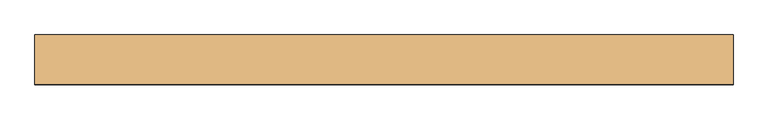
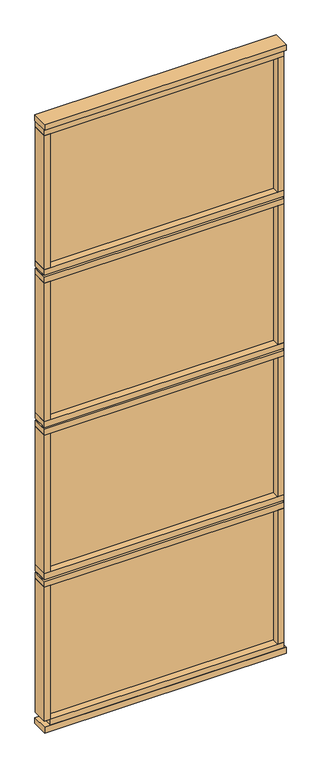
"""IFC4 building model written with IfcOpenShell, lengths in millimetres: door geometry, Mobiliário_Mobiliário de Escritório_Painel de Vidro Simples - AU4T (Complementar)_Marelli : AU4T - Temperado."""

from ifc_helpers import new_model, si_unit, frame, origin, origin_with_axes, place, context, project, spatial, polyline, outline, extrude, source, transform, mapped, element, save


def door_78983a9b(model_context):
    return source(origin(), model_context, "Body", "SweptSolid", [
        extrude(outline(polyline([(600.0, 42.5), (600.0, -42.5), (-600.0, -42.5), (-600.0, 42.5), (600.0, 42.5)])), origin_with_axes(), (0.0, 0.0, 1.0), 30.0),
        extrude(outline(polyline([(590.0, 39.5), (590.0, -39.5), (-600.0, -39.5), (-600.0, 39.5), (590.0, 39.5)])), frame((0.0, 0.0, 2405.0), z_axis=(0.0, 0.0, 1.0), x_axis=(1.0, 0.0, 0.0)), (0.0, 0.0, 1.0), 30.0),
        extrude(outline(polyline([(-570.0, 39.5), (-570.0, -39.5), (-600.0, -39.5), (-600.0, 39.5), (-570.0, 39.5)])), frame((0.0, 0.0, 2435.0), z_axis=(0.0, 0.0, 1.0), x_axis=(1.0, 0.0, 0.0)), (0.0, 0.0, 1.0), 705.0),
        extrude(outline(polyline([(560.0, 39.5), (590.0, 39.5), (590.0, -39.5), (560.0, -39.5), (560.0, 39.5)])), frame((0.0, 0.0, 2435.0), z_axis=(0.0, 0.0, 1.0), x_axis=(1.0, 0.0, 0.0)), (0.0, 0.0, 1.0), 705.0),
        extrude(outline(polyline([(560.0, 3.0), (560.0, -3.0), (-570.0, -3.0), (-570.0, 3.0), (560.0, 3.0)])), frame((0.0, 0.0, 2435.0), z_axis=(0.0, 0.0, 1.0), x_axis=(1.0, 0.0, 0.0)), (0.0, 0.0, 1.0), 705.0),
        extrude(outline(polyline([(590.0, 21.5), (590.0, -21.5), (-600.0, -21.5), (-600.0, 21.5), (590.0, 21.5)])), frame((0.0, 0.0, 2395.0), z_axis=(0.0, 0.0, 1.0), x_axis=(1.0, 0.0, 0.0)), (0.0, 0.0, 1.0), 10.0),
        extrude(outline(polyline([(590.0, 21.5), (590.0, -21.5), (-600.0, -21.5), (-600.0, 21.5), (590.0, 21.5)])), frame((0.0, 0.0, 1595.0), z_axis=(0.0, 0.0, 1.0), x_axis=(1.0, 0.0, 0.0)), (0.0, 0.0, 1.0), 10.0),
        extrude(outline(polyline([(590.0, 21.5), (590.0, -21.5), (-600.0, -21.5), (-600.0, 21.5), (590.0, 21.5)])), frame((0.0, 0.0, 795.0), z_axis=(0.0, 0.0, 1.0), x_axis=(1.0, 0.0, 0.0)), (0.0, 0.0, 1.0), 10.0),
        extrude(outline(polyline([(590.0, 39.5), (590.0, -39.5), (-600.0, -39.5), (-600.0, 39.5), (590.0, 39.5)])), frame((0.0, 0.0, 1605.0), z_axis=(0.0, 0.0, 1.0), x_axis=(1.0, 0.0, 0.0)), (0.0, 0.0, 1.0), 30.0),
        extrude(outline(polyline([(590.0, 39.5), (590.0, -39.5), (-600.0, -39.5), (-600.0, 39.5), (590.0, 39.5)])), frame((0.0, 0.0, 2365.0), z_axis=(0.0, 0.0, 1.0), x_axis=(1.0, 0.0, 0.0)), (0.0, 0.0, 1.0), 30.0),
        extrude(outline(polyline([(590.0, 39.5), (590.0, -39.5), (-600.0, -39.5), (-600.0, 39.5), (590.0, 39.5)])), frame((0.0, 0.0, 1565.0), z_axis=(0.0, 0.0, 1.0), x_axis=(1.0, 0.0, 0.0)), (0.0, 0.0, 1.0), 30.0),
        extrude(outline(polyline([(590.0, 39.5), (590.0, -39.5), (-600.0, -39.5), (-600.0, 39.5), (590.0, 39.5)])), frame((0.0, 0.0, 805.0), z_axis=(0.0, 0.0, 1.0), x_axis=(1.0, 0.0, 0.0)), (0.0, 0.0, 1.0), 30.0),
        extrude(outline(polyline([(-570.0, 39.5), (-570.0, -39.5), (-600.0, -39.5), (-600.0, 39.5), (-570.0, 39.5)])), frame((0.0, 0.0, 60.0), z_axis=(0.0, 0.0, 1.0), x_axis=(1.0, 0.0, 0.0)), (0.0, 0.0, 1.0), 705.0),
        extrude(outline(polyline([(560.0, 39.5), (590.0, 39.5), (590.0, -39.5), (560.0, -39.5), (560.0, 39.5)])), frame((0.0, 0.0, 60.0), z_axis=(0.0, 0.0, 1.0), x_axis=(1.0, 0.0, 0.0)), (0.0, 0.0, 1.0), 705.0),
        extrude(outline(polyline([(590.0, 39.5), (590.0, -39.5), (-600.0, -39.5), (-600.0, 39.5), (590.0, 39.5)])), frame((0.0, 0.0, 765.0), z_axis=(0.0, 0.0, 1.0), x_axis=(1.0, 0.0, 0.0)), (0.0, 0.0, 1.0), 30.0),
        extrude(outline(polyline([(590.0, 39.5), (590.0, -39.5), (-570.0, -39.5), (-570.0, 39.5), (590.0, 39.5)])), frame((0.0, 0.0, 30.0), z_axis=(0.0, 0.0, 1.0), x_axis=(1.0, 0.0, 0.0)), (0.0, 0.0, 1.0), 30.0),
        extrude(outline(polyline([(560.0, 3.0), (560.0, -3.0), (-570.0, -3.0), (-570.0, 3.0), (560.0, 3.0)])), frame((0.0, 0.0, 60.0), z_axis=(0.0, 0.0, 1.0), x_axis=(1.0, 0.0, 0.0)), (0.0, 0.0, 1.0), 705.0),
        extrude(outline(polyline([(600.0, 42.5), (600.0, -42.5), (-600.0, -42.5), (-600.0, 42.5), (600.0, 42.5)])), frame((0.0, 0.0, 3170.0), z_axis=(0.0, 0.0, 1.0), x_axis=(1.0, 0.0, 0.0)), (0.0, 0.0, 1.0), 30.0),
        extrude(outline(polyline([(590.0, 39.5), (590.0, -39.5), (-600.0, -39.5), (-600.0, 39.5), (590.0, 39.5)])), frame((0.0, 0.0, 3140.0), z_axis=(0.0, 0.0, 1.0), x_axis=(1.0, 0.0, 0.0)), (0.0, 0.0, 1.0), 30.0),
        extrude(outline(polyline([(590.0, 21.5), (600.0, 21.5), (600.0, -21.5), (590.0, -21.5), (590.0, 21.5)])), frame((0.0, 0.0, 30.0), z_axis=(0.0, 0.0, 1.0), x_axis=(1.0, 0.0, 0.0)), (0.0, 0.0, 1.0), 3140.0),
        extrude(outline(polyline([(-570.0, 39.5), (-570.0, -39.5), (-600.0, -39.5), (-600.0, 39.5), (-570.0, 39.5)])), frame((0.0, 0.0, 1635.0), z_axis=(0.0, 0.0, 1.0), x_axis=(1.0, 0.0, 0.0)), (0.0, 0.0, 1.0), 730.0),
        extrude(outline(polyline([(560.0, 39.5), (590.0, 39.5), (590.0, -39.5), (560.0, -39.5), (560.0, 39.5)])), frame((0.0, 0.0, 1635.0), z_axis=(0.0, 0.0, 1.0), x_axis=(1.0, 0.0, 0.0)), (0.0, 0.0, 1.0), 730.0),
        extrude(outline(polyline([(560.0, 3.0), (560.0, -3.0), (-570.0, -3.0), (-570.0, 3.0), (560.0, 3.0)])), frame((0.0, 0.0, 1635.0), z_axis=(0.0, 0.0, 1.0), x_axis=(1.0, 0.0, 0.0)), (0.0, 0.0, 1.0), 730.0),
        extrude(outline(polyline([(-570.0, 39.5), (-570.0, -39.5), (-600.0, -39.5), (-600.0, 39.5), (-570.0, 39.5)])), frame((0.0, 0.0, 835.0), z_axis=(0.0, 0.0, 1.0), x_axis=(1.0, 0.0, 0.0)), (0.0, 0.0, 1.0), 730.0),
        extrude(outline(polyline([(560.0, 39.5), (590.0, 39.5), (590.0, -39.5), (560.0, -39.5), (560.0, 39.5)])), frame((0.0, 0.0, 835.0), z_axis=(0.0, 0.0, 1.0), x_axis=(1.0, 0.0, 0.0)), (0.0, 0.0, 1.0), 730.0),
        extrude(outline(polyline([(560.0, 3.0), (560.0, -3.0), (-570.0, -3.0), (-570.0, 3.0), (560.0, 3.0)])), frame((0.0, 0.0, 835.0), z_axis=(0.0, 0.0, 1.0), x_axis=(1.0, 0.0, 0.0)), (0.0, 0.0, 1.0), 730.0),
    ])


if __name__ == "__main__":
    model = new_model("IFC4")
    model_context = context("Model", 3, world=origin())
    ifc_project = project(units=[si_unit("LENGTHUNIT", "METRE", prefix="MILLI")], contexts=[model_context])
    site = spatial("IfcSite", under=ifc_project)
    building = spatial("IfcBuilding", under=site)
    placement = place(None, origin())
    door_shape = door_78983a9b(model_context)
    element("IfcDoor", 1, ObjectType="Mobiliário_Mobiliário de Escritório_Painel de Vidro Simples - AU4T (Complementar)_Marelli : AU4T - Temperado", at=placement, inside=building, context=model_context, shape_type="MappedRepresentation", body=[
        mapped(door_shape, transform((0.0, 0.0, 0.0), x_axis=(1.0, 0.0, 0.0), y_axis=(0.0, 1.0, 0.0), z_axis=(0.0, 0.0, 1.0))),
    ])
    save(model, "model.ifc")
